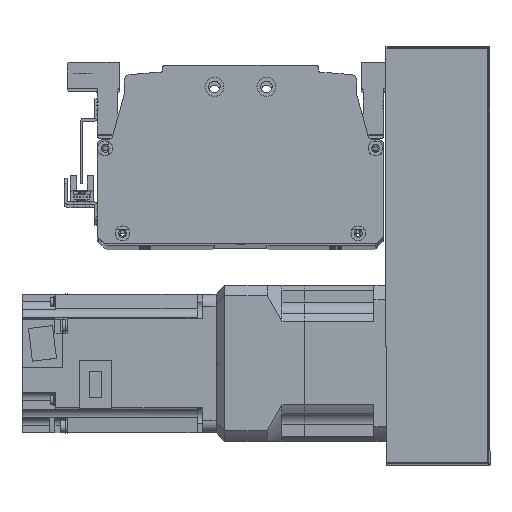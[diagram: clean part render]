
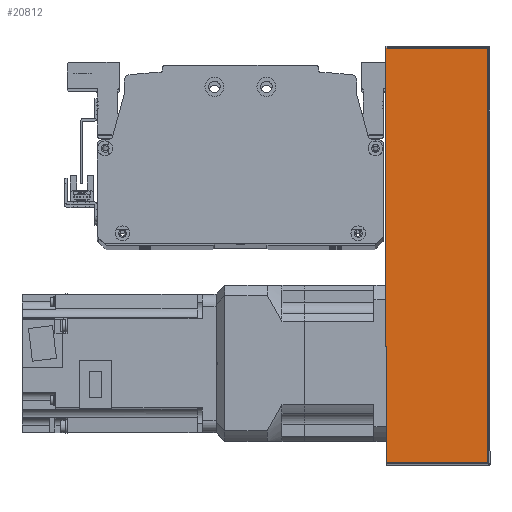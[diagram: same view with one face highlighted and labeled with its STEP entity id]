
A CAD part, top view. The second image highlights one B-rep face of the part: STEP entity #20812.
In plain terms, the highlighted planar face has unit normal (0, 0, 1) as drawn and (0, 1, 0) by its records, which use the part's own axes.
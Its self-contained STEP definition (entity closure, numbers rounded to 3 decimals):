
#560=PLANE('',#22688);
#1691=LINE('',#33101,#3351);
#1710=LINE('',#33185,#3370);
#1712=LINE('',#33195,#3372);
#1713=LINE('',#33197,#3373);
#3351=VECTOR('',#26930,10.);
#3370=VECTOR('',#27043,10.);
#3372=VECTOR('',#27057,10.);
#3373=VECTOR('',#27060,10.);
#5381=FACE_OUTER_BOUND('',#6833,.T.);
#6833=EDGE_LOOP('',(#16334,#16335,#16336,#16337));
#9721=VERTEX_POINT('',#33098);
#9722=VERTEX_POINT('',#33100);
#9739=VERTEX_POINT('',#33179);
#9742=VERTEX_POINT('',#33191);
#12089=EDGE_CURVE('',#9722,#9721,#1691,.T.);
#12132=EDGE_CURVE('',#9739,#9722,#1710,.T.);
#12137=EDGE_CURVE('',#9721,#9742,#1712,.T.);
#12138=EDGE_CURVE('',#9742,#9739,#1713,.T.);
#16334=ORIENTED_EDGE('',*,*,#12132,.T.);
#16335=ORIENTED_EDGE('',*,*,#12089,.T.);
#16336=ORIENTED_EDGE('',*,*,#12137,.T.);
#16337=ORIENTED_EDGE('',*,*,#12138,.T.);
#20812=ADVANCED_FACE('',(#5381),#560,.F.);
#22688=AXIS2_PLACEMENT_3D('',#33204,#27069,#27070);
#26930=DIRECTION('',(-1.,0.,0.));
#27043=DIRECTION('',(0.,0.,-1.));
#27057=DIRECTION('',(0.,0.,1.));
#27060=DIRECTION('',(1.,0.,0.));
#27069=DIRECTION('center_axis',(0.,-1.,0.));
#27070=DIRECTION('ref_axis',(-1.,0.,0.));
#33098=CARTESIAN_POINT('',(-120.,51.,-30.));
#33100=CARTESIAN_POINT('',(120.,51.,-30.));
#33101=CARTESIAN_POINT('',(-121.,51.,-30.));
#33179=CARTESIAN_POINT('',(120.,51.,29.));
#33185=CARTESIAN_POINT('',(120.,51.,0.));
#33191=CARTESIAN_POINT('',(-120.,51.,29.));
#33195=CARTESIAN_POINT('',(-120.,51.,0.));
#33197=CARTESIAN_POINT('',(60.5,51.,29.));
#33204=CARTESIAN_POINT('Origin',(121.,51.,0.));
